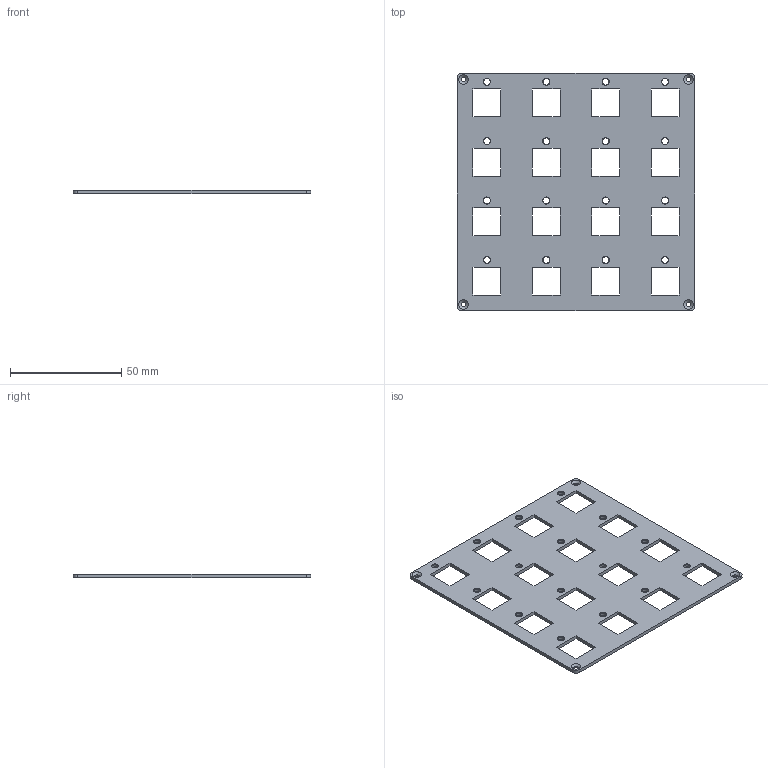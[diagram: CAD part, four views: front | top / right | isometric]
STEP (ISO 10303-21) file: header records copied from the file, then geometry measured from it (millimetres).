
FILE_DESCRIPTION(('FreeCAD Model'),'2;1');
FILE_NAME('/media/sf_Mechanical/G4 Mech/Source/FRONTPANEL/B16_SQR.step', '2018-09-25T13:36:40',('Author'),(''), 'Open CASCADE STEP processor 6.8','FreeCAD','Unknown');
FILE_SCHEMA(('AUTOMOTIVE_DESIGN_CC2 { 1 2 10303 214 -1 1 5 4 }'));
Length unit declared in the file: millimetre
Products named in the file (2): ASSEMBLY; Light2
Assembly tree (1 placements, depth 2):
  ASSEMBLY
    Light2
Bounding box: 106.6 x 106.6 x 1.6 mm (x, y, z)
Volume: 13946.7 mm3; surface area: 19698.9 mm2
Topology: 1 solids, 1 shells, 130 faces, 332 edges, 220 vertices
Faces by surface type: plane 86, cylinder 40, cone 4
Full cylindrical faces by diameter (mm): 2.2 x4, 3 x16, 3.2 x16
Entity records: 8519 total; most frequent: CARTESIAN_POINT 1940, DIRECTION 1132, LINE 696, VECTOR 696, ORIENTED_EDGE 664, PCURVE 664, DEFINITIONAL_REPRESENTATION 664, EDGE_CURVE 332
